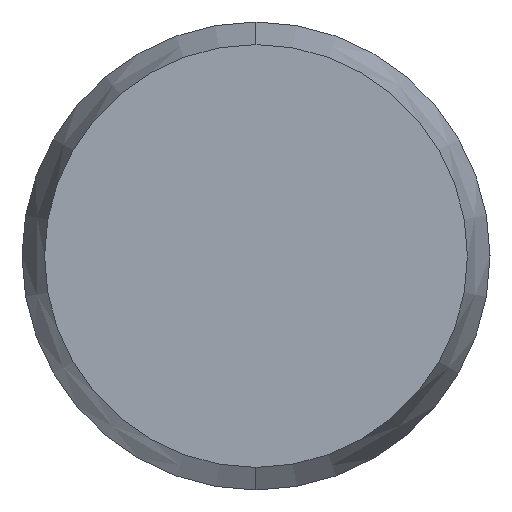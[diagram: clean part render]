
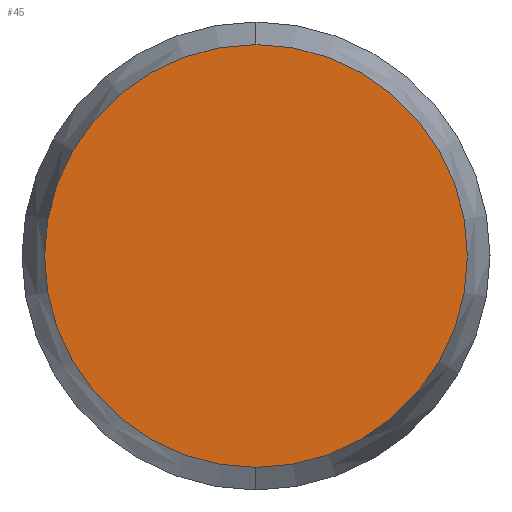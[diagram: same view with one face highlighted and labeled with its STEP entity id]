
A CAD part, left-side view. The second image highlights one B-rep face of the part: STEP entity #45.
In plain terms, the highlighted planar face has unit normal (-1, 0, 0).
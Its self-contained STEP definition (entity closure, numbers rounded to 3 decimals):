
#7 = EDGE_CURVE ( 'NONE', #8, #9, #97, .T. ) ;
#8 = VERTEX_POINT ( 'NONE', #92 ) ;
#9 = VERTEX_POINT ( 'NONE', #91 ) ;
#37 = EDGE_LOOP ( 'NONE', ( #48, #46 ) ) ;
#38 = EDGE_CURVE ( 'NONE', #9, #8, #83, .T. ) ;
#45 = ADVANCED_FACE ( 'NONE', ( #142 ), #146, .F. ) ;
#46 = ORIENTED_EDGE ( 'NONE', *, *, #38, .F. ) ;
#48 = ORIENTED_EDGE ( 'NONE', *, *, #7, .F. ) ;
#79 = DIRECTION ( 'NONE',  ( 0., 0., -1. ) ) ;
#80 = DIRECTION ( 'NONE',  ( 1., 0., 0. ) ) ;
#81 = CARTESIAN_POINT ( 'NONE',  ( -5., 0., 0. ) ) ;
#82 = AXIS2_PLACEMENT_3D ( 'NONE', #81, #80, #79 ) ;
#83 = CIRCLE ( 'NONE', #82, 1.129 ) ;
#91 = CARTESIAN_POINT ( 'NONE',  ( -5., 0., -1.129 ) ) ;
#92 = CARTESIAN_POINT ( 'NONE',  ( -5., 0., 1.129 ) ) ;
#93 = DIRECTION ( 'NONE',  ( 0., 0., -1. ) ) ;
#94 = DIRECTION ( 'NONE',  ( 1., 0., 0. ) ) ;
#95 = CARTESIAN_POINT ( 'NONE',  ( -5., 0., 0. ) ) ;
#96 = AXIS2_PLACEMENT_3D ( 'NONE', #95, #94, #93 ) ;
#97 = CIRCLE ( 'NONE', #96, 1.129 ) ;
#137 = DIRECTION ( 'NONE',  ( 0., 0., -1. ) ) ;
#138 = DIRECTION ( 'NONE',  ( 1., 0., 0. ) ) ;
#140 = CARTESIAN_POINT ( 'NONE',  ( -5., 0., 0. ) ) ;
#141 = AXIS2_PLACEMENT_3D ( 'NONE', #140, #138, #137 ) ;
#142 = FACE_OUTER_BOUND ( 'NONE', #37, .T. ) ;
#146 = PLANE ( 'NONE',  #141 ) ;
